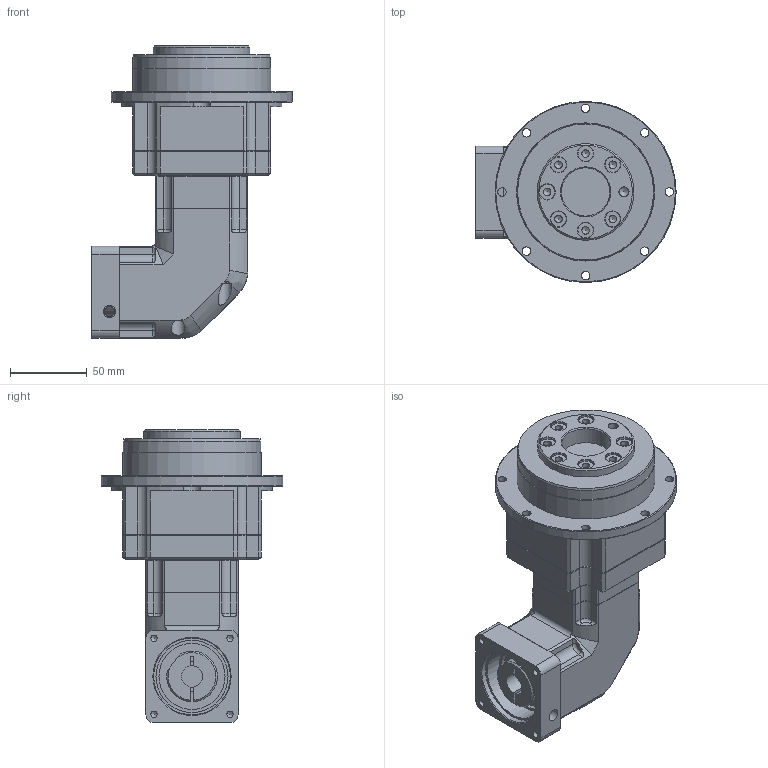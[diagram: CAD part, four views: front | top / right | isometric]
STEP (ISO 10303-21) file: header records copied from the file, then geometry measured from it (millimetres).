
FILE_DESCRIPTION((''),'2;1');
FILE_NAME('\\Autocad_1\업무관리(연구2부)\연구2부 1팀(유성팀)\유성감속기 부문 자료\04 참고자료(공통)\03 교육, 홍보자료\01 전시회, 홈페이지, 카다록, 선정프로그램 자료\02. 홈페이지 자료\09. SPLFD 도면\SPLF090DS2010-05-28T16:19:15','2010-05-28T16:19:15',('augold'),(''),'Autodesk Inventor 2010','Autodesk Inventor 2010','');
FILE_SCHEMA(('AUTOMOTIVE_DESIGN { 1 0 10303 214 1 1 1 1 }'));
Length unit declared in the file: millimetre
Products named in the file (6): SPIF090S016~100FA; SPIF090; CARRIER CASE; DOWN ADAPTER; SPL060 GEARCASE; 60각 INPUT ADAPTER FLANGE
Assembly tree (5 placements, depth 2):
  SPIF090S016~100FA
    SPIF090
    CARRIER CASE
    DOWN ADAPTER
    SPL060 GEARCASE
    60각 INPUT ADAPTER FLANGE
Bounding box: 130.5 x 118 x 190.8 mm (x, y, z)
Volume: 953780.4 mm3; surface area: 134548.6 mm2
Topology: 6 solids, 6 shells, 452 faces, 1112 edges, 692 vertices
Faces by surface type: plane 192, cylinder 155, cone 91, bspline 12, torus 2
Full cylindrical faces by diameter (mm): 4.134 x4, 4.3 x4, 4.917 x7, 5.5 x12, 6 x1, 6.401 x1, 7.5 x4, 8 x1, 10 x8, 12 x1, 14 x1, 20 x1, 29 x1, 31.5 x1, 36 x1, 43 x1, 47 x1, 50 x2, 51 x1, 52 x2, 54 x1, 63 x1, 89.4 x1, 90 x1, 118 x1
Entity records: 13771 total; most frequent: CARTESIAN_POINT 3367, DIRECTION 2156, ORIENTED_EDGE 1960, EDGE_CURVE 980, AXIS2_PLACEMENT_3D 860, VERTEX_POINT 651, EDGE_LOOP 603, FACE_OUTER_BOUND 452
